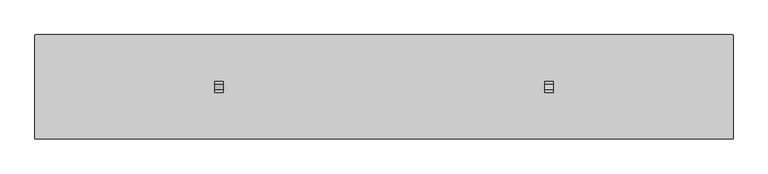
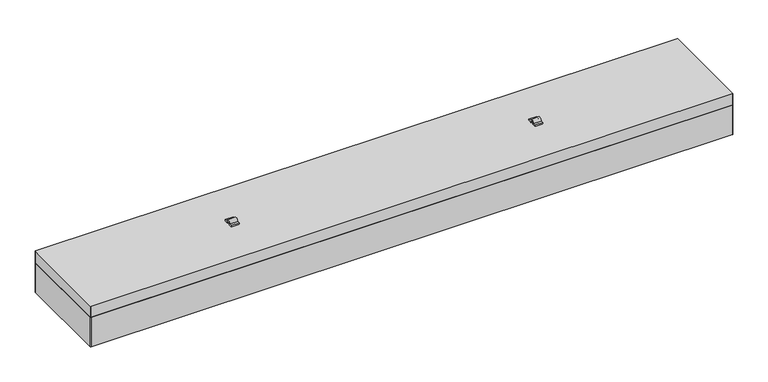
"""IFC4 building model written with IfcOpenShell, lengths in millimetres: light fixture geometry, ДПО46 Contur F : ДПО46-76-801."""

from ifc_helpers import new_model, si_unit, point, frame, frame_2d, origin, place, context, project, spatial, polyline, circle_curve, trimmed, segment, composite_curve, outline, extrude, source, transform, mapped, element, save


def light_fixture_83e7464a(model_context):
    return source(origin(), model_context, "Body", "SweptSolid", [
        extrude(outline(composite_curve([segment(polyline([(-10.0, 3.0), (-5.0, 3.0)]), True, "CONTINUOUS"), segment(trimmed(circle_curve(frame_2d((0.0, 3.0)), 5.0), [point((-5.0, 3.0))], [point((5.0, 3.0))], False, "CARTESIAN"), True, "CONTINUOUS"), segment(polyline([(5.0, 3.0), (10.0, 3.0), (10.0, 0.0), (3.0, 0.0)]), True, "CONTINUOUS"), segment(trimmed(circle_curve(frame_2d((0.0, 1.4671776)), 3.3395524), [point((3.0, 0.0))], [point((-3.0, 0.0))], True, "CARTESIAN"), True, "CONTINUOUS"), segment(polyline([(-3.0, 0.0), (-10.0, 0.0), (-10.0, 3.0)]), True, "CONTINUOUS")], self_intersect=False)), frame((-307.7050692, 0.0, 0.0), z_axis=(1.0, 0.0, 0.0), x_axis=(0.0, 1.0, 0.0)), (0.0, 0.0, 1.0), 15.4101384),
        extrude(outline(composite_curve([segment(polyline([(-10.0, 3.0), (-5.0, 3.0)]), True, "CONTINUOUS"), segment(trimmed(circle_curve(frame_2d((0.0, 3.0)), 5.0), [point((-5.0, 3.0))], [point((5.0, 3.0))], False, "CARTESIAN"), True, "CONTINUOUS"), segment(polyline([(5.0, 3.0), (10.0, 3.0), (10.0, 0.0), (3.0, 0.0)]), True, "CONTINUOUS"), segment(trimmed(circle_curve(frame_2d((0.0, 1.4671776)), 3.3395524), [point((3.0, 0.0))], [point((-3.0, 0.0))], True, "CARTESIAN"), True, "CONTINUOUS"), segment(polyline([(-3.0, 0.0), (-10.0, 0.0), (-10.0, 3.0)]), True, "CONTINUOUS")], self_intersect=False)), frame((292.2949308, 0.0, 0.0), z_axis=(1.0, 0.0, 0.0), x_axis=(0.0, 1.0, 0.0)), (0.0, 0.0, 1.0), 15.4101384),
        extrude(outline(composite_curve([segment(trimmed(circle_curve(frame_2d((633.5, 93.5)), 1.5), [point((633.5, 95.0))], [point((635.0, 93.5))], False, "CARTESIAN"), True, "CONTINUOUS"), segment(polyline([(635.0, 93.5), (635.0, -93.5)]), True, "CONTINUOUS"), segment(trimmed(circle_curve(frame_2d((633.5, -93.5)), 1.5), [point((635.0, -93.5))], [point((633.5, -95.0))], False, "CARTESIAN"), True, "CONTINUOUS"), segment(polyline([(633.5, -95.0), (-633.5, -95.0)]), True, "CONTINUOUS"), segment(trimmed(circle_curve(frame_2d((-633.5, -93.5)), 1.5), [point((-633.5, -95.0))], [point((-635.0, -93.5))], False, "CARTESIAN"), True, "CONTINUOUS"), segment(polyline([(-635.0, -93.5), (-635.0, 93.5)]), True, "CONTINUOUS"), segment(trimmed(circle_curve(frame_2d((-633.5, 93.5)), 1.5), [point((-635.0, 93.5))], [point((-633.5, 95.0))], False, "CARTESIAN"), True, "CONTINUOUS"), segment(polyline([(-633.5, 95.0), (633.5, 95.0)]), True, "CONTINUOUS")], self_intersect=False)), frame((0.0, 0.0, -85.0), z_axis=(0.0, 0.0, 1.0), x_axis=(1.0, 0.0, 0.0)), (0.0, 0.0, 1.0), 61.6947106),
        extrude(outline(composite_curve([segment(trimmed(circle_curve(frame_2d((634.2504542, 94.2504542)), 0.7495458), [point((634.2504542, 95.0))], [point((635.0, 94.2504542))], False, "CARTESIAN"), True, "CONTINUOUS"), segment(polyline([(635.0, 94.2504542), (635.0, -94.3331699)]), True, "CONTINUOUS"), segment(trimmed(circle_curve(frame_2d((634.3331699, -94.3331699)), 0.6668301), [point((635.0, -94.3331699))], [point((634.3331699, -95.0))], False, "CARTESIAN"), True, "CONTINUOUS"), segment(polyline([(634.3331699, -95.0), (-634.3035332, -95.0)]), True, "CONTINUOUS"), segment(trimmed(circle_curve(frame_2d((-634.3035332, -94.3035332)), 0.6964668), [point((-634.3035332, -95.0))], [point((-635.0, -94.3035332))], False, "CARTESIAN"), True, "CONTINUOUS"), segment(polyline([(-635.0, -94.3035332), (-635.0, 94.3113008)]), True, "CONTINUOUS"), segment(trimmed(circle_curve(frame_2d((-634.3113008, 94.3113008)), 0.6886992), [point((-635.0, 94.3113008))], [point((-634.3113008, 95.0))], False, "CARTESIAN"), True, "CONTINUOUS"), segment(polyline([(-634.3113008, 95.0), (634.2504542, 95.0)]), True, "CONTINUOUS")], self_intersect=False)), frame((0.0, 0.0, -23.3052894), z_axis=(0.0, 0.0, 1.0), x_axis=(1.0, 0.0, 0.0)), (0.0, 0.0, 1.0), 23.3052894),
        extrude(outline(polyline([(635.0, 5.7115124), (635.0, -5.8702471), (625.1820926, -5.8702471), (625.1820926, 5.7115124), (635.0, 5.7115124)])), frame((0.0, 0.0, -17.8855767), z_axis=(0.0, 0.0, 1.0), x_axis=(1.0, 0.0, 0.0)), (0.0, 0.0, 1.0), 11.6787364),
    ])


if __name__ == "__main__":
    model = new_model("IFC4")
    model_context = context("Model", 3, world=origin())
    ifc_project = project(units=[si_unit("LENGTHUNIT", "METRE", prefix="MILLI")], contexts=[model_context])
    site = spatial("IfcSite", under=ifc_project)
    building = spatial("IfcBuilding", under=site)
    placement = place(None, origin())
    light_fixture_shape = light_fixture_83e7464a(model_context)
    element("IfcLightFixture", 1, ObjectType="ДПО46 Contur F : ДПО46-76-801", at=placement, inside=building, context=model_context, shape_type="MappedRepresentation", body=[
        mapped(light_fixture_shape, transform((0.0, 0.0, 0.0), x_axis=(1.0, 0.0, 0.0), y_axis=(0.0, 1.0, 0.0), z_axis=(0.0, 0.0, 1.0))),
    ])
    save(model, "model.ifc")
